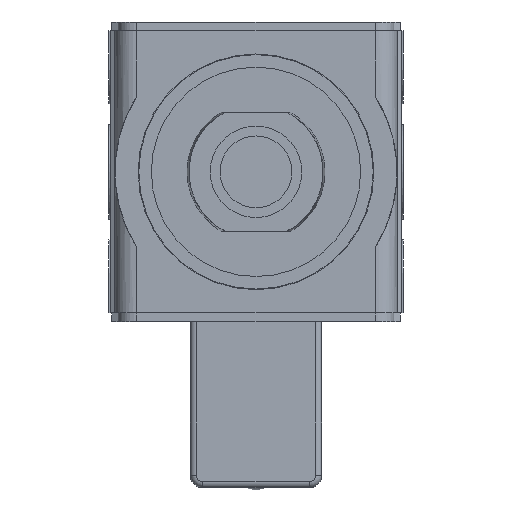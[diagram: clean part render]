
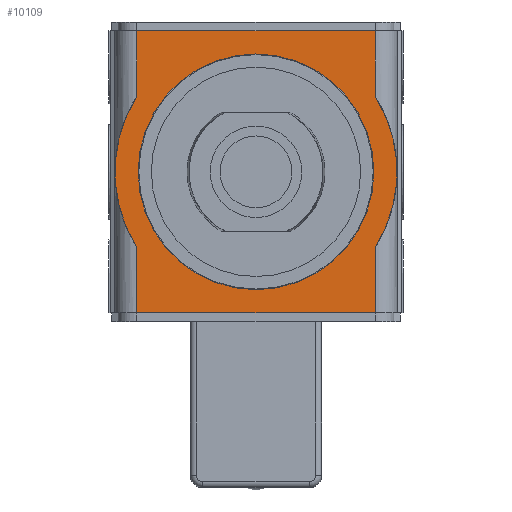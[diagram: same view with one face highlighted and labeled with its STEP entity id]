
A CAD part, front view. The second image highlights one B-rep face of the part: STEP entity #10109.
In plain terms, the highlighted planar face has unit normal (0, -1, 0).
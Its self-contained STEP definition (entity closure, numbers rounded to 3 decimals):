
#2345=CARTESIAN_POINT('',(-19.,-26.0,22.5));
#2346=VERTEX_POINT('',#2345);
#2354=CARTESIAN_POINT('',(19.,-26.,22.5));
#2355=VERTEX_POINT('',#2354);
#2356=CARTESIAN_POINT('',(19.,-26.,22.5));
#2357=DIRECTION('',(-1.0,0.0,0.0));
#2358=VECTOR('',#2357,38.);
#2359=LINE('',#2356,#2358);
#2360=EDGE_CURVE('',#2355,#2346,#2359,.T.);
#4406=CARTESIAN_POINT('',(19.,-26.,-22.5));
#4407=VERTEX_POINT('',#4406);
#4415=CARTESIAN_POINT('',(-19.,-26.0,-22.5));
#4416=VERTEX_POINT('',#4415);
#4417=CARTESIAN_POINT('',(-19.,-26.0,-22.5));
#4418=DIRECTION('',(1.0,0.0,0.0));
#4419=VECTOR('',#4418,38.);
#4420=LINE('',#4417,#4419);
#4421=EDGE_CURVE('',#4416,#4407,#4420,.T.);
#10043=CARTESIAN_POINT('',(19.,-26.,0.0));
#10044=DIRECTION('',(0.0,-1.0,0.0));
#10045=DIRECTION('',(0.0,0.0,-1.0));
#10046=AXIS2_PLACEMENT_3D('',#10043,#10044,#10045);
#10047=PLANE('',#10046);
#10048=ORIENTED_EDGE('',*,*,#2360,.T.);
#10049=CARTESIAN_POINT('',(-19.,-26.,12.052));
#10050=VERTEX_POINT('',#10049);
#10051=CARTESIAN_POINT('',(-19.,-26.0,22.5));
#10052=DIRECTION('',(0.0,0.0,-1.0));
#10053=VECTOR('',#10052,10.448);
#10054=LINE('',#10051,#10053);
#10055=EDGE_CURVE('',#2346,#10050,#10054,.T.);
#10056=ORIENTED_EDGE('',*,*,#10055,.T.);
#10057=CARTESIAN_POINT('',(-19.,-26.,-12.052));
#10058=VERTEX_POINT('',#10057);
#10059=CARTESIAN_POINT('',(0.,-26.,0.0));
#10060=DIRECTION('',(0.,1.,0.));
#10061=DIRECTION('',(0.844,0.,-0.536));
#10062=AXIS2_PLACEMENT_3D('',#10059,#10060,#10061);
#10063=CIRCLE('',#10062,22.5);
#10064=EDGE_CURVE('',#10058,#10050,#10063,.T.);
#10065=ORIENTED_EDGE('',*,*,#10064,.F.);
#10066=CARTESIAN_POINT('',(-19.,-26.0,-12.052));
#10067=DIRECTION('',(0.0,0.0,-1.0));
#10068=VECTOR('',#10067,10.448);
#10069=LINE('',#10066,#10068);
#10070=EDGE_CURVE('',#10058,#4416,#10069,.T.);
#10071=ORIENTED_EDGE('',*,*,#10070,.T.);
#10072=ORIENTED_EDGE('',*,*,#4421,.T.);
#10073=CARTESIAN_POINT('',(19.,-26.,-12.052));
#10074=VERTEX_POINT('',#10073);
#10075=CARTESIAN_POINT('',(19.,-26.,-12.052));
#10076=DIRECTION('',(0.0,0.0,-1.0));
#10077=VECTOR('',#10076,10.448);
#10078=LINE('',#10075,#10077);
#10079=EDGE_CURVE('',#10074,#4407,#10078,.T.);
#10080=ORIENTED_EDGE('',*,*,#10079,.F.);
#10081=CARTESIAN_POINT('',(19.,-26.,12.052));
#10082=VERTEX_POINT('',#10081);
#10083=CARTESIAN_POINT('',(0.,-26.,0.0));
#10084=DIRECTION('',(0.,-1.,0.));
#10085=DIRECTION('',(0.844,0.,-0.536));
#10086=AXIS2_PLACEMENT_3D('',#10083,#10084,#10085);
#10087=CIRCLE('',#10086,22.5);
#10088=EDGE_CURVE('',#10074,#10082,#10087,.T.);
#10089=ORIENTED_EDGE('',*,*,#10088,.T.);
#10090=CARTESIAN_POINT('',(19.,-26.,22.5));
#10091=DIRECTION('',(0.0,0.0,-1.0));
#10092=VECTOR('',#10091,10.448);
#10093=LINE('',#10090,#10092);
#10094=EDGE_CURVE('',#2355,#10082,#10093,.T.);
#10095=ORIENTED_EDGE('',*,*,#10094,.F.);
#10096=EDGE_LOOP('',(#10048,#10056,#10065,#10071,#10072,#10080,#10089,#10095));
#10097=FACE_OUTER_BOUND('',#10096,.T.);
#10098=CARTESIAN_POINT('',(18.8,-26.,0.));
#10099=VERTEX_POINT('',#10098);
#10100=CARTESIAN_POINT('',(0.,-26.,0.0));
#10101=DIRECTION('',(0.0,1.0,0.0));
#10102=DIRECTION('',(-1.0,0.0,0.0));
#10103=AXIS2_PLACEMENT_3D('',#10100,#10101,#10102);
#10104=CIRCLE('',#10103,18.8);
#10105=EDGE_CURVE('',#10099,#10099,#10104,.T.);
#10106=ORIENTED_EDGE('',*,*,#10105,.T.);
#10107=EDGE_LOOP('',(#10106));
#10108=FACE_BOUND('',#10107,.T.);
#10109=ADVANCED_FACE('',(#10097,#10108),#10047,.T.);
